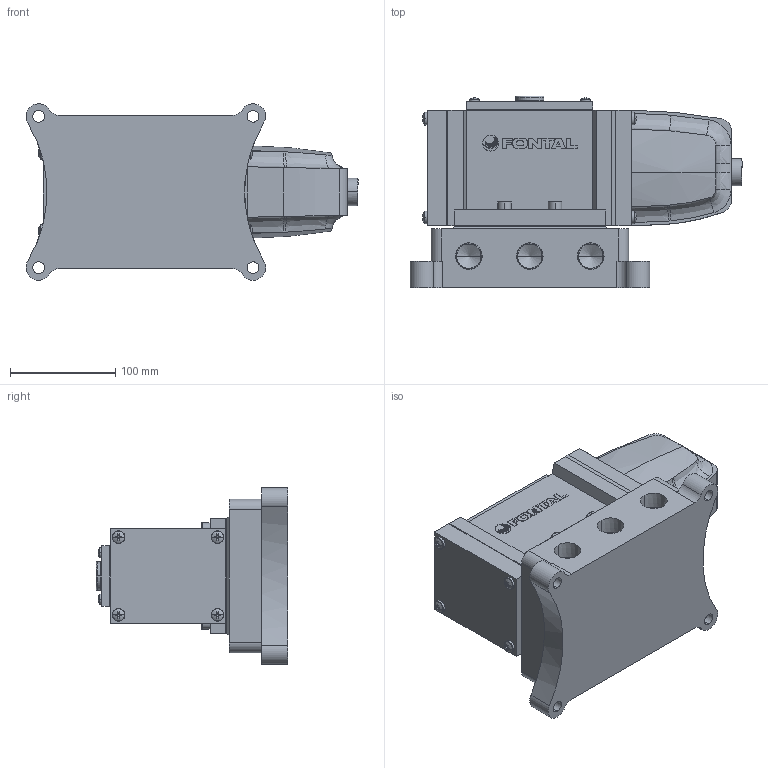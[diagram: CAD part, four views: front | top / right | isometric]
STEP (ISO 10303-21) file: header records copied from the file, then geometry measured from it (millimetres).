
FILE_DESCRIPTION (( 'STEP AP203' ), '1' );
FILE_NAME ('AS2425-08-##.STEP', '2016-03-09T05:15:54', ( 'Sam Lin' ), ( '' ), 'SwSTEP 2.0', 'SolidWorks 2013', '' );
FILE_SCHEMA (( 'CONFIG_CONTROL_DESIGN' ));
Length unit declared in the file: metre
Products named in the file (14): AS2425-1; AS2425-5; A25-MARK-2415; AS2425-08-##; ISO 4762 M8 x 30; AS2425-2; AS2425-6=08; AS2425-3; ISO 7045 - M5 x 16; AS2325-2; AS2325-3; ISO 7045 - M6 x 20; AS2310-4; AS2425-4
Assembly tree (26 placements, depth 2):
  AS2425-08-##
    AS2425-1
    A25-MARK-2415
    AS2425-2
    AS2425-3
    AS2325-2
    AS2325-3
    ISO 7045 - M6 x 20  x8
    AS2310-4
    AS2425-4
    AS2425-5
    ISO 4762 M8 x 30  x4
    AS2425-6=08
    ISO 7045 - M5 x 16  x4
Bounding box: 315.89 x 182.5 x 167.99 mm (x, y, z)
Volume: 4024865.8 mm3; surface area: 392633.3 mm2
Topology: 32 solids, 32 shells, 834 faces, 2083 edges, 1305 vertices
Faces by surface type: plane 436, cylinder 170, cone 108, bspline 104, torus 16
Entity records: 16742 total; most frequent: CARTESIAN_POINT 5179, ORIENTED_EDGE 2042, DIRECTION 1957, EDGE_CURVE 1021, AXIS2_PLACEMENT_3D 697, VERTEX_POINT 664, LINE 563, VECTOR 563
